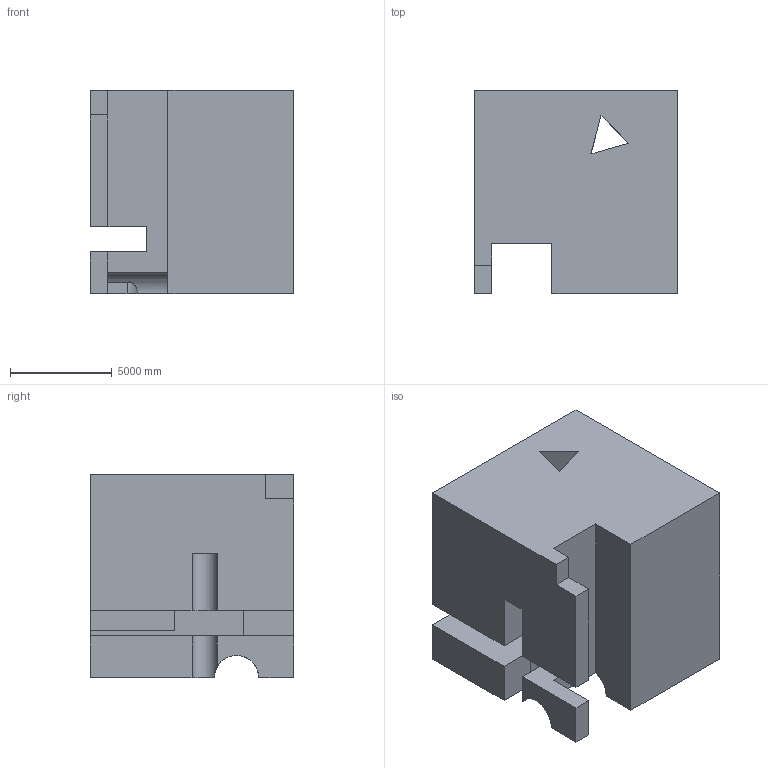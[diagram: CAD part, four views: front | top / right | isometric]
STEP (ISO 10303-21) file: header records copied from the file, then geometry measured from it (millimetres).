
FILE_DESCRIPTION (( 'STEP AP203' ), '1' );
FILE_NAME ('673.STEP', '2022-08-04T15:36:27', ( 'user' ), ( '' ), 'SwSTEP 2.0', 'SolidWorks 2021', '' );
FILE_SCHEMA (( 'CONFIG_CONTROL_DESIGN' ));
Length unit declared in the file: centimetre
Products named in the file (1): 673
Bounding box: 10000 x 10000 x 10000 mm (x, y, z)
Volume: 839997102644.8 mm3; surface area: 753951562.8 mm2
Topology: 1 solids, 1 shells, 37 faces, 105 edges, 70 vertices
Faces by surface type: plane 34, cylinder 3
Entity records: 1323 total; most frequent: CARTESIAN_POINT 270, ORIENTED_EDGE 210, DIRECTION 188, EDGE_CURVE 105, VECTOR 96, LINE 96, VERTEX_POINT 70, AXIS2_PLACEMENT_3D 46
